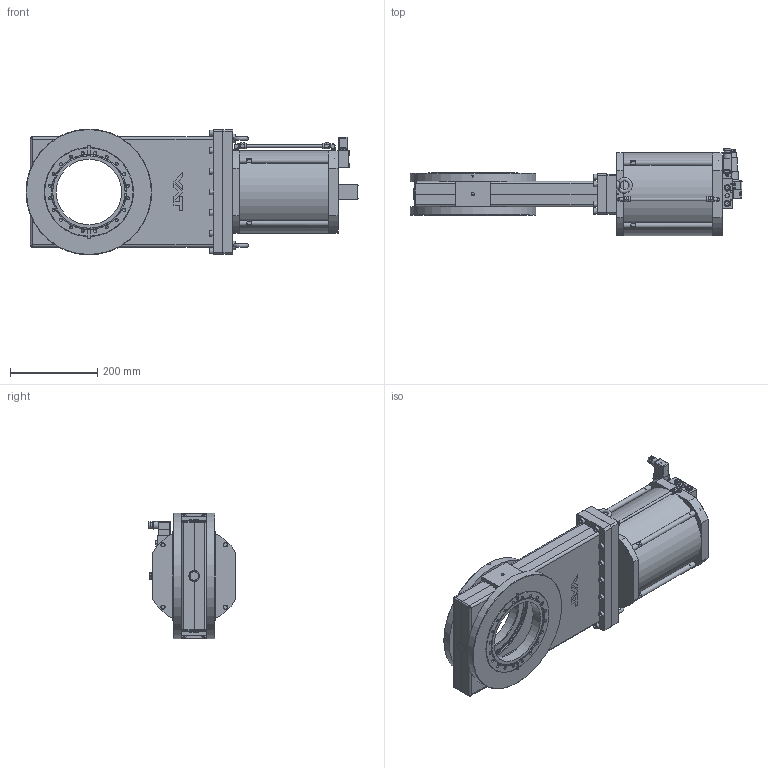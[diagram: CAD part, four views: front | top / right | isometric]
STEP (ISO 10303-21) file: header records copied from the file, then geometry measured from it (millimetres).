
FILE_DESCRIPTION(/* description */ (''),/* implementation_level */ '2;1');
FILE_NAME(/* name */ '1297250637_203.stp',/* time_stamp */ '2016-02-26T08:08:45+01:00',/* author */ (''),/* organization */ (''),/* preprocessor_version */ 'ST-DEVELOPER v15',/* originating_system */ 'SIEMENS PLM Software NX 9.0',/* authorisation */ '');
FILE_SCHEMA (('AP203_CONFIGURATION_CONTROLLED_3D_DESIGN_OF_MECHANICAL_PARTS_AND_ASSEMBLIES_MIM_LF { 1 0 10303 403 2 1 2}'));
Products named in the file (35): 201994_1; 467863; 467864; n-7501-502_1; n-7501-502_2; 201995_1; 201961_1; 201962_1; 201974; 201977; 72238-01; 83890-01.5; 83906-01.4; 83905-01.2; n-8504-002; n-6203-015; n-6033-403; n-6024-562; 72236-01; 69672-01; 83907-01.3; 83913-01.1; n-6162-404; n-6005-500; n-6024-531; n-7705-001; n-7612-031; n-6016-503; 224837.1; 83910-01.1; n-8501-300_NX-ARRAGMNTArrangement 1; n-7501-502_NX-ARRAGMNT0Â°; 201965; 371682_MODEL; 832605
Assembly tree (66 placements, depth 4):
  832605
    371682_MODEL
      201965
        201994_1  x2
      201977
      201974  x2
      201962_1
      201961_1
      201995_1
    83910-01.1  x4
    224837.1  x14
    n-6016-503  x2
    n-7612-031  x2
    n-7705-001  x2
    n-6024-531  x4
    n-6005-500  x4
    n-6162-404  x2
    83913-01.1
    83907-01.3
    69672-01
    72236-01
    n-6024-562  x2
    n-6033-403  x2
    n-6203-015
    n-8504-002
    n-7501-502_NX-ARRAGMNT0Â°
      n-7501-502_2
      n-7501-502_1
      n-6024-562  x2
    83905-01.2
    83906-01.4
    83890-01.5
    n-8501-300_NX-ARRAGMNTArrangement 1
      467864
      467863
    72238-01
Bounding box: 760.83 x 199.85 x 288.25 mm (x, y, z)
Volume: 5653269.7 mm3; surface area: 1458661.9 mm2
Topology: 102 solids, 102 shells, 2261 faces, 5339 edges, 3473 vertices
Faces by surface type: plane 1282, cylinder 583, cone 235, extrusion 69, bspline 42, torus 32, sphere 18
Full cylindrical faces by diameter (mm): 1.4 x2, 1.66 x7, 1.95 x4, 2.25 x4, 2.7 x5, 3 x5, 3.26 x2, 3.3 x4, 3.4 x4, 4 x10, 4.2 x2, 4.25 x5, 4.3 x1, 4.4 x4, 4.5 x2, 4.8 x2, 4.9 x1, 5 x4, 5.006 x2, 5.5 x3, 5.6 x2, 6 x13, 6.1 x2, 6.5 x2, 6.647 x4, 6.66 x18, 6.7 x18, 6.8 x62, 7 x2, 7.5 x2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
Entity records: 58471 total; most frequent: CARTESIAN_POINT 16114, DIRECTION 7003, ORIENTED_EDGE 6784, EDGE_CURVE 3392, AXIS2_PLACEMENT_3D 2642, VERTEX_POINT 2504, EDGE_LOOP 2329, VECTOR 1719
